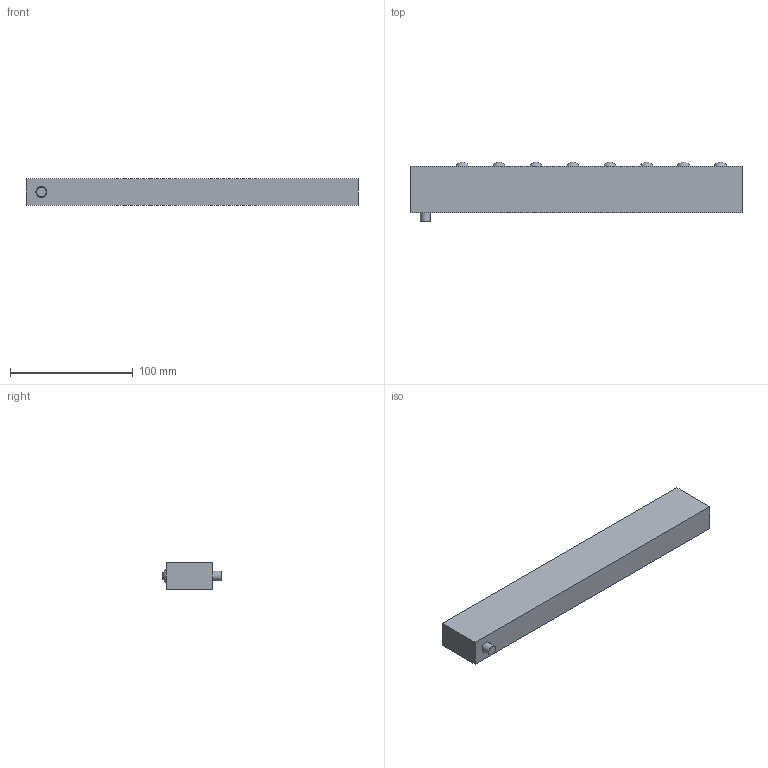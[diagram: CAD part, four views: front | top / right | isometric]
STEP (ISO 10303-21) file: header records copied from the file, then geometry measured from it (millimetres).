
FILE_DESCRIPTION(/* description */ (''),/* implementation_level */ '2;1');
FILE_NAME(/* name */ 'V:\Shrinkwrap\EMB\EMB - SHRINKWRAP\EMB22\EMB22-8_Shrinkwrap_1.stp',/* time_stamp */ '2022-08-12T10:32:18+02:00',/* author */ ('cw'),/* organization */ (''),/* preprocessor_version */ 'ST-DEVELOPER v17',/* originating_system */ 'Autodesk Inventor 2019',/* authorisation */ '');
FILE_SCHEMA (('AUTOMOTIVE_DESIGN { 1 0 10303 214 3 1 1 }'));
Length unit declared in the file: millimetre
Products named in the file (1): EMB22-8_Shrinkwrap_1
Bounding box: 270 x 48.46 x 21.8 mm (x, y, z)
Volume: 221384.8 mm3; surface area: 36431 mm2
Topology: 1 solids, 1 shells, 22 faces, 36 edges, 30 vertices
Faces by surface type: plane 10, sphere 8, cylinder 4
Full cylindrical faces by diameter (mm): 8 x1, 9 x1, 13 x1, 14 x1
Entity records: 616 total; most frequent: DIRECTION 98, CARTESIAN_POINT 87, ORIENTED_EDGE 68, AXIS2_PLACEMENT_3D 41, EDGE_LOOP 34, EDGE_CURVE 34, VERTEX_POINT 26, STYLED_ITEM 25
